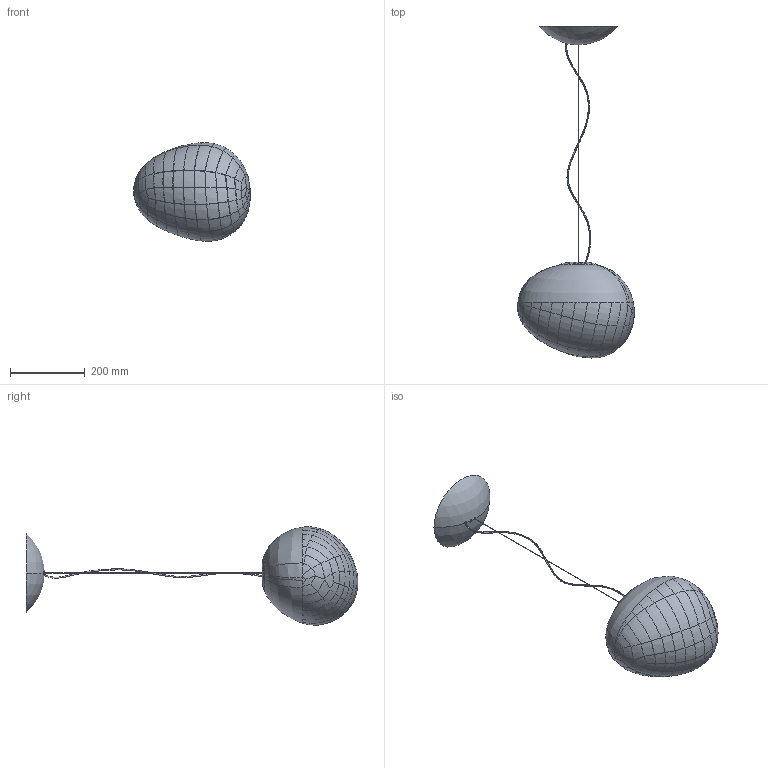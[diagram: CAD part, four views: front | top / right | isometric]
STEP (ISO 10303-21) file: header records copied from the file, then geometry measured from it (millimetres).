
FILE_DESCRIPTION (( 'STEP AP203' ), '1' );
FILE_NAME ('168_MEDIA_S_LD_3D.STEP', '2021-04-07T10:44:40', ( '' ), ( '' ), 'SwSTEP 2.0', 'SolidWorks 2021', '' );
FILE_SCHEMA (( 'CONFIG_CONTROL_DESIGN' ));
Products named in the file (1): 168_MEDIA_S_LD_3D
Bounding box: 311.02 x 885.33 x 262.45 mm (x, y, z)
Volume: 1567721.6 mm3; surface area: 581511.2 mm2
Topology: 4 solids, 4 shells, 1570 faces, 3841 edges, 2214 vertices
Faces by surface type: bspline 725, cylinder 211, torus 207, plane 198, cone 138, sphere 91
Entity records: 329965 total; most frequent: CARTESIAN_POINT 299382, ORIENTED_EDGE 7486, DIRECTION 4873, EDGE_CURVE 3743, VERTEX_POINT 2206, AXIS2_PLACEMENT_3D 2164, B_SPLINE_CURVE_WITH_KNOTS 1694, EDGE_LOOP 1609
